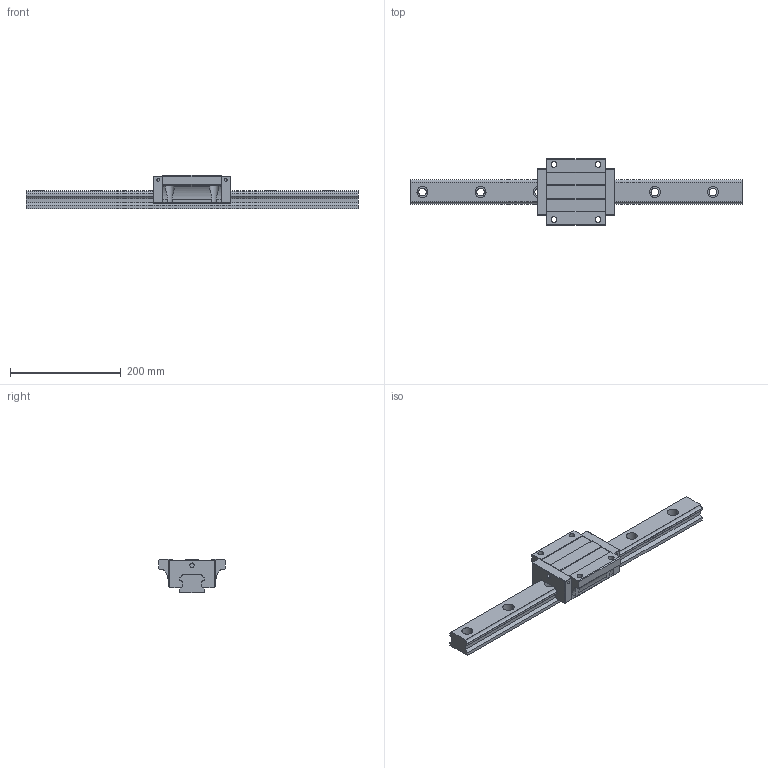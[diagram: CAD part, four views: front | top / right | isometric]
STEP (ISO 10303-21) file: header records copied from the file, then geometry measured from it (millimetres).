
FILE_DESCRIPTION (( 'STEP AP203' ), '1' );
FILE_NAME ('TRH45FL-XN.STEP', '2024-05-09T08:28:01', ( '' ), ( '' ), 'SwSTEP 2.0', 'SolidWorks 2022', '' );
FILE_SCHEMA (( 'CONFIG_CONTROL_DESIGN' ));
Length unit declared in the file: millimetre
Products named in the file (1): TRH45FL-XN
Bounding box: 600 x 120 x 60 mm (x, y, z)
Volume: 1234236.3 mm3; surface area: 169686.7 mm2
Topology: 2 solids, 2 shells, 214 faces, 582 edges, 380 vertices
Faces by surface type: cylinder 114, plane 96, sphere 4
Entity records: 7403 total; most frequent: CARTESIAN_POINT 1783, DIRECTION 1172, ORIENTED_EDGE 1156, EDGE_CURVE 578, AXIS2_PLACEMENT_3D 411, VERTEX_POINT 380, VECTOR 350, LINE 350
